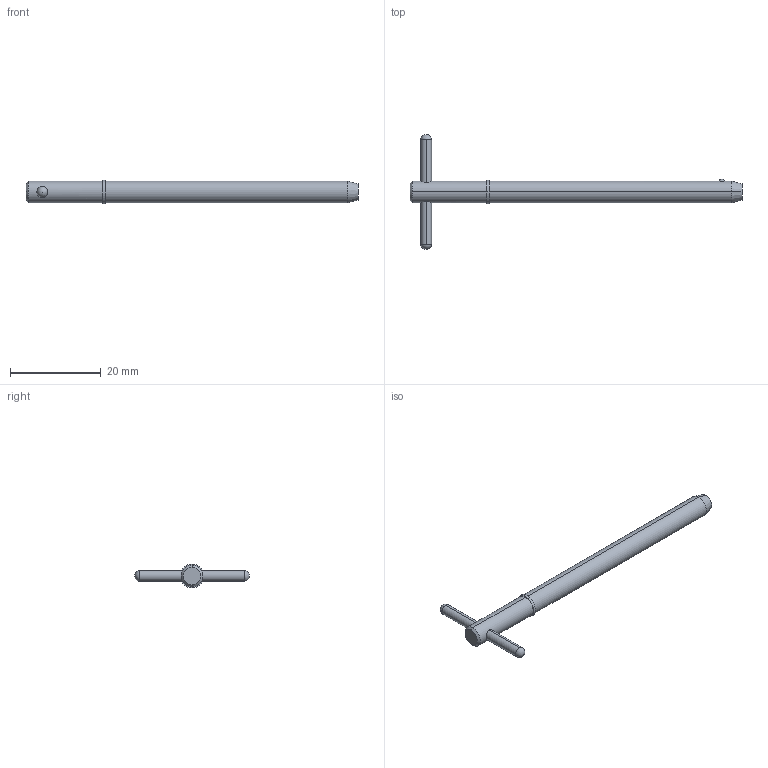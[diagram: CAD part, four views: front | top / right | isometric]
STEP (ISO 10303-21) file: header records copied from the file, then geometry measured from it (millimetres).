
FILE_DESCRIPTION (( 'STEP AP203' ), '1' );
FILE_NAME ('33018.W1820.step', '2024-11-19T17:07:04', ( '' ), ( '' ), 'SwSTEP 2.0', 'SolidWorks 2019', '' );
FILE_SCHEMA (( 'CONFIG_CONTROL_DESIGN' ));
Length unit declared in the file: millimetre
Products named in the file (3): Part1_33018.W1820; Part2_33018.W1820; 33018.W1820
Assembly tree (2 placements, depth 2):
  33018.W1820
    Part1_33018.W1820
    Part2_33018.W1820
Bounding box: 73.33 x 25.4 x 5.24 mm (x, y, z)
Volume: 1385.4 mm3; surface area: 1339.6 mm2
Topology: 2 solids, 2 shells, 22 faces, 47 edges, 30 vertices
Faces by surface type: cylinder 10, sphere 4, cone 4, plane 4
Entity records: 961 total; most frequent: CARTESIAN_POINT 204, DIRECTION 110, ORIENTED_EDGE 82, AXIS2_PLACEMENT_3D 48, EDGE_CURVE 41, EDGE_LOOP 27, PERSON_AND_ORGANIZATION 26, VERTEX_POINT 26
